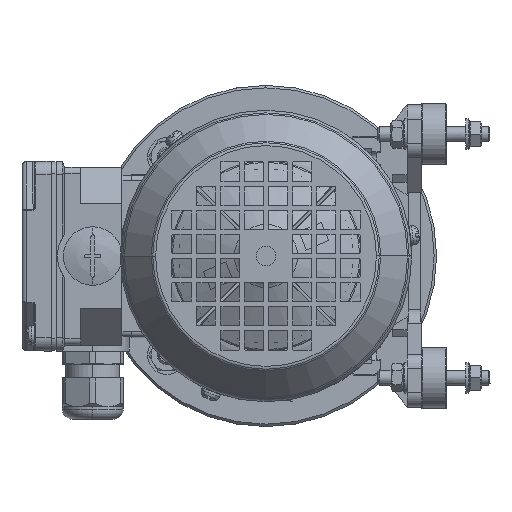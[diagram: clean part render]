
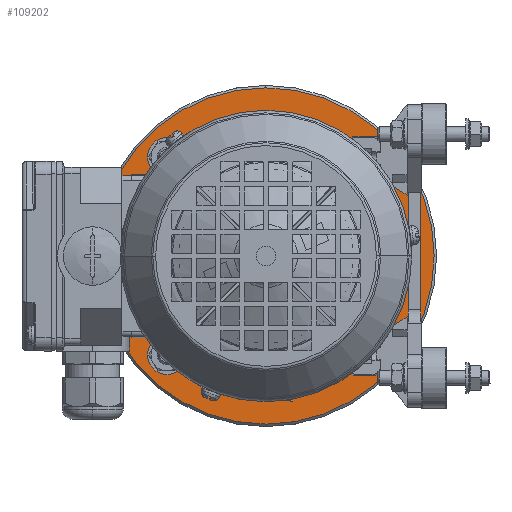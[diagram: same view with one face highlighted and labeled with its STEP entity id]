
A CAD part, front view. The second image highlights one B-rep face of the part: STEP entity #109202.
In plain terms, the highlighted planar face has unit normal (0, -1, 0).
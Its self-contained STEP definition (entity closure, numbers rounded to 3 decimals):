
#45395=CARTESIAN_POINT('',(-0.025,150.209,
0.));
#45396=DIRECTION('',(0.,1.,0.));
#45397=DIRECTION('',(0.,0.,1.));
#45398=AXIS2_PLACEMENT_3D('',#45395,#45396,#45397);
#45403=CARTESIAN_POINT('',(-0.025,150.209,
0.));
#45404=DIRECTION('',(0.,1.,0.));
#45405=DIRECTION('',(1.,0.,0.));
#45406=AXIS2_PLACEMENT_3D('',#45403,#45404,#45405);
#45411=CARTESIAN_POINT('',(-0.025,150.209,
0.));
#45412=DIRECTION('',(0.,1.,0.));
#45413=DIRECTION('',(0.,0.,-1.));
#45414=AXIS2_PLACEMENT_3D('',#45411,#45412,#45413);
#45419=CARTESIAN_POINT('',(-0.025,150.209,
0.));
#45420=DIRECTION('',(0.,1.,0.));
#45421=DIRECTION('',(-1.,0.,0.));
#45422=AXIS2_PLACEMENT_3D('',#45419,#45420,#45421);
#45427=CARTESIAN_POINT('',(-0.025,150.209,
0.));
#45428=DIRECTION('',(0.,-1.,0.));
#45429=DIRECTION('',(-1.,0.,0.));
#45430=AXIS2_PLACEMENT_3D('',#45427,#45428,#45429);
#45435=CARTESIAN_POINT('',(-0.025,150.209,
0.));
#45436=DIRECTION('',(0.,-1.,0.));
#45437=DIRECTION('',(0.,0.,-1.));
#45438=AXIS2_PLACEMENT_3D('',#45435,#45436,#45437);
#45443=CARTESIAN_POINT('',(-0.025,150.209,
0.));
#45444=DIRECTION('',(0.,-1.,0.));
#45445=DIRECTION('',(1.,0.,0.));
#45446=AXIS2_PLACEMENT_3D('',#45443,#45444,#45445);
#45451=CARTESIAN_POINT('',(-0.025,150.209,
0.));
#45452=DIRECTION('',(0.,-1.,0.));
#45453=DIRECTION('',(0.,0.,1.));
#45454=AXIS2_PLACEMENT_3D('',#45451,#45452,#45453);
#45459=CARTESIAN_POINT('',(40.659,150.209,
-40.659));
#45460=DIRECTION('',(0.,-1.,0.));
#45461=DIRECTION('',(1.,0.,0.));
#45462=AXIS2_PLACEMENT_3D('',#45459,#45460,#45461);
#45467=CARTESIAN_POINT('',(40.659,150.209,
-40.659));
#45468=DIRECTION('',(0.,-1.,0.));
#45469=DIRECTION('',(-1.,0.,0.));
#45470=AXIS2_PLACEMENT_3D('',#45467,#45468,#45469);
#45475=CARTESIAN_POINT('',(-40.659,150.209,
-40.659));
#45476=DIRECTION('',(0.,-1.,0.));
#45477=DIRECTION('',(1.,0.,0.));
#45478=AXIS2_PLACEMENT_3D('',#45475,#45476,#45477);
#45483=CARTESIAN_POINT('',(-40.659,150.209,
-40.659));
#45484=DIRECTION('',(0.,-1.,0.));
#45485=DIRECTION('',(-1.,0.,0.));
#45486=AXIS2_PLACEMENT_3D('',#45483,#45484,#45485);
#45491=CARTESIAN_POINT('',(-40.659,150.209,
40.659));
#45492=DIRECTION('',(0.,-1.,0.));
#45493=DIRECTION('',(1.,0.,0.));
#45494=AXIS2_PLACEMENT_3D('',#45491,#45492,#45493);
#45499=CARTESIAN_POINT('',(-40.659,150.209,
40.659));
#45500=DIRECTION('',(0.,-1.,0.));
#45501=DIRECTION('',(-1.,0.,0.));
#45502=AXIS2_PLACEMENT_3D('',#45499,#45500,#45501);
#45507=CARTESIAN_POINT('',(40.659,150.209,40.659));
#45508=DIRECTION('',(0.,-1.,0.));
#45509=DIRECTION('',(1.,0.,0.));
#45510=AXIS2_PLACEMENT_3D('',#45507,#45508,#45509);
#45515=CARTESIAN_POINT('',(40.659,150.209,40.659));
#45516=DIRECTION('',(0.,-1.,0.));
#45517=DIRECTION('',(-1.,0.,0.));
#45518=AXIS2_PLACEMENT_3D('',#45515,#45516,#45517);
#64354=CARTESIAN_POINT('',(-0.04,150.209,
48.5));
#64355=VERTEX_POINT('',#64354);
#64356=CARTESIAN_POINT('',(48.475,150.209,
0.015));
#64357=VERTEX_POINT('',#64356);
#64358=CARTESIAN_POINT('',(-0.01,150.209,
-48.5));
#64359=VERTEX_POINT('',#64358);
#64360=CARTESIAN_POINT('',(-48.525,150.209,
-0.015));
#64361=VERTEX_POINT('',#64360);
#64362=CARTESIAN_POINT('',(68.975,150.209,
0.021));
#64363=CARTESIAN_POINT('',(-0.004,150.209,
-69.));
#64364=VERTEX_POINT('',#64362);
#64365=VERTEX_POINT('',#64363);
#64366=CARTESIAN_POINT('',(-0.046,150.209,
69.));
#64367=VERTEX_POINT('',#64366);
#64368=CARTESIAN_POINT('',(-69.025,150.209,
-0.021));
#64369=VERTEX_POINT('',#64368);
#64370=CARTESIAN_POINT('',(48.659,150.209,
-40.659));
#64371=CARTESIAN_POINT('',(32.659,150.209,
-40.659));
#64372=VERTEX_POINT('',#64370);
#64373=VERTEX_POINT('',#64371);
#64374=CARTESIAN_POINT('',(-32.659,150.209,
-40.659));
#64375=CARTESIAN_POINT('',(-48.659,150.209,
-40.659));
#64376=VERTEX_POINT('',#64374);
#64377=VERTEX_POINT('',#64375);
#64378=CARTESIAN_POINT('',(-32.659,150.209,
40.659));
#64379=CARTESIAN_POINT('',(-48.659,150.209,
40.659));
#64380=VERTEX_POINT('',#64378);
#64381=VERTEX_POINT('',#64379);
#64382=CARTESIAN_POINT('',(48.659,150.209,40.659));
#64383=CARTESIAN_POINT('',(32.659,150.209,40.659));
#64384=VERTEX_POINT('',#64382);
#64385=VERTEX_POINT('',#64383);
#109157=CARTESIAN_POINT('',(-0.025,150.209,
0.));
#109158=DIRECTION('',(0.,-1.,0.));
#109159=DIRECTION('',(0.,0.,1.));
#109160=AXIS2_PLACEMENT_3D('',#109157,#109158,#109159);
#109161=PLANE('',#109160);
#109163=ORIENTED_EDGE('',*,*,#109162,.T.);
#109165=ORIENTED_EDGE('',*,*,#109164,.T.);
#109167=ORIENTED_EDGE('',*,*,#109166,.T.);
#109169=ORIENTED_EDGE('',*,*,#109168,.T.);
#109170=EDGE_LOOP('',(#109163,#109165,#109167,#109169));
#109171=FACE_OUTER_BOUND('',#109170,.F.);
#109172=ORIENTED_EDGE('',*,*,#109142,.T.);
#109173=ORIENTED_EDGE('',*,*,#109119,.T.);
#109174=ORIENTED_EDGE('',*,*,#109117,.T.);
#109175=ORIENTED_EDGE('',*,*,#109144,.T.);
#109176=EDGE_LOOP('',(#109172,#109173,#109174,#109175));
#109177=FACE_BOUND('',#109176,.F.);
#109179=ORIENTED_EDGE('',*,*,#109178,.T.);
#109181=ORIENTED_EDGE('',*,*,#109180,.T.);
#109182=EDGE_LOOP('',(#109179,#109181));
#109183=FACE_BOUND('',#109182,.F.);
#109185=ORIENTED_EDGE('',*,*,#109184,.T.);
#109187=ORIENTED_EDGE('',*,*,#109186,.T.);
#109188=EDGE_LOOP('',(#109185,#109187));
#109189=FACE_BOUND('',#109188,.F.);
#109191=ORIENTED_EDGE('',*,*,#109190,.T.);
#109193=ORIENTED_EDGE('',*,*,#109192,.T.);
#109194=EDGE_LOOP('',(#109191,#109193));
#109195=FACE_BOUND('',#109194,.F.);
#109197=ORIENTED_EDGE('',*,*,#109196,.T.);
#109199=ORIENTED_EDGE('',*,*,#109198,.T.);
#109200=EDGE_LOOP('',(#109197,#109199));
#109201=FACE_BOUND('',#109200,.F.);
#45399=CIRCLE('',#45398,69.);
#45407=CIRCLE('',#45406,69.);
#45415=CIRCLE('',#45414,69.);
#45423=CIRCLE('',#45422,69.);
#45431=CIRCLE('',#45430,48.5);
#45439=CIRCLE('',#45438,48.5);
#45447=CIRCLE('',#45446,48.5);
#45455=CIRCLE('',#45454,48.5);
#45463=CIRCLE('',#45462,8.);
#45471=CIRCLE('',#45470,8.);
#45479=CIRCLE('',#45478,8.);
#45487=CIRCLE('',#45486,8.);
#45495=CIRCLE('',#45494,8.);
#45503=CIRCLE('',#45502,8.);
#45511=CIRCLE('',#45510,8.);
#45519=CIRCLE('',#45518,8.);
#109117=EDGE_CURVE('',#64357,#64355,#45447,.T.);
#109119=EDGE_CURVE('',#64359,#64357,#45439,.T.);
#109142=EDGE_CURVE('',#64361,#64359,#45431,.T.);
#109144=EDGE_CURVE('',#64355,#64361,#45455,.T.);
#109162=EDGE_CURVE('',#64367,#64364,#45399,.T.);
#109164=EDGE_CURVE('',#64364,#64365,#45407,.T.);
#109166=EDGE_CURVE('',#64365,#64369,#45415,.T.);
#109168=EDGE_CURVE('',#64369,#64367,#45423,.T.);
#109178=EDGE_CURVE('',#64372,#64373,#45463,.T.);
#109180=EDGE_CURVE('',#64373,#64372,#45471,.T.);
#109184=EDGE_CURVE('',#64376,#64377,#45479,.T.);
#109186=EDGE_CURVE('',#64377,#64376,#45487,.T.);
#109190=EDGE_CURVE('',#64380,#64381,#45495,.T.);
#109192=EDGE_CURVE('',#64381,#64380,#45503,.T.);
#109196=EDGE_CURVE('',#64384,#64385,#45511,.T.);
#109198=EDGE_CURVE('',#64385,#64384,#45519,.T.);
#109202=ADVANCED_FACE('',(#109171,#109177,#109183,#109189,#109195,#109201),
#109161,.T.);
